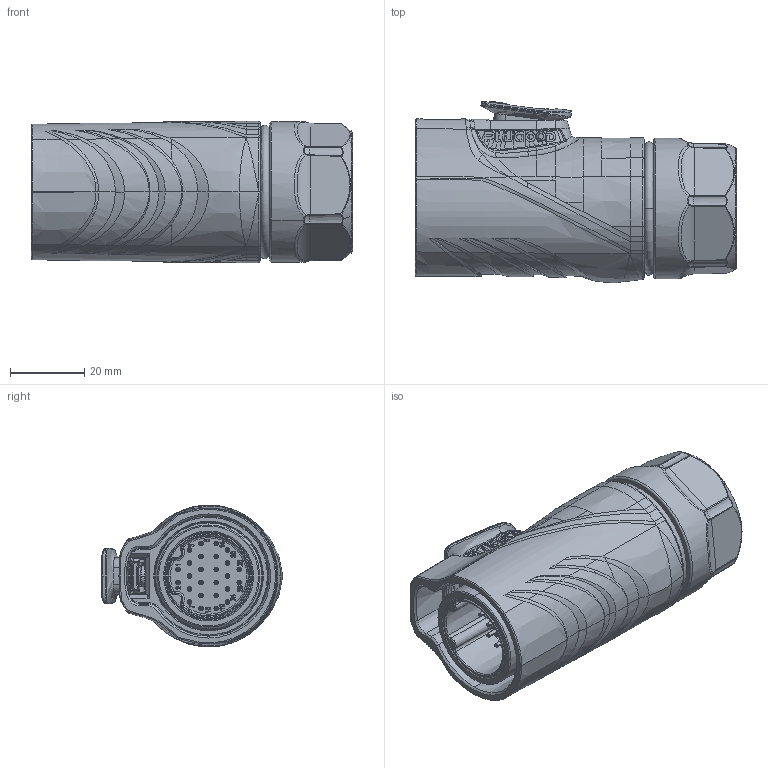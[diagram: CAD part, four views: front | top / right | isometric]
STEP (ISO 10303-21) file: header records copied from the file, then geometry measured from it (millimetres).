
FILE_DESCRIPTION (( 'STEP AP203' ), '1' );
FILE_NAME ('PLG28 26郋眻芛脣芛.STEP', '2025-10-31T10:22:16', ( '' ), ( '' ), 'SwSTEP 2.0', 'SolidWorks 2024', '' );
FILE_SCHEMA (( 'CONFIG_CONTROL_DESIGN' ));
Products named in the file (1): PLG28 26芯直头插头
Bounding box: 86.7 x 49.02 x 38.3 mm (x, y, z)
Volume: 86556.7 mm3; surface area: 28543.2 mm2
Topology: 2 solids, 6 shells, 1982 faces, 5002 edges, 3112 vertices
Faces by surface type: bspline 882, plane 464, cylinder 368, cone 134, torus 98, sphere 36
Entity records: 154539 total; most frequent: CARTESIAN_POINT 113780, ORIENTED_EDGE 9960, DIRECTION 6189, EDGE_CURVE 4980, VERTEX_POINT 3112, AXIS2_PLACEMENT_3D 2359, EDGE_LOOP 2106, B_SPLINE_CURVE_WITH_KNOTS 2046
